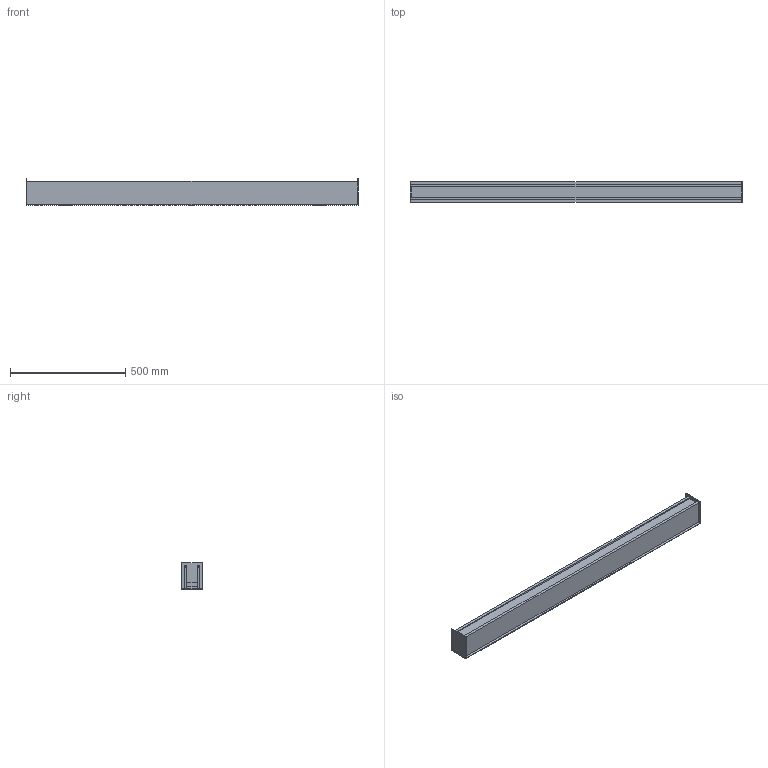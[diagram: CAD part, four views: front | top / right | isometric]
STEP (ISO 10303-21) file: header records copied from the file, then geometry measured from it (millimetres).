
FILE_DESCRIPTION (( 'STEP AP203' ), '1' );
FILE_NAME ('Belka natynkowa 1440mm.STEP', '2020-07-12T21:23:50', ( '' ), ( '' ), 'SwSTEP 2.0', 'SolidWorks 2012', '' );
FILE_SCHEMA (( 'CONFIG_CONTROL_DESIGN' ));
Length unit declared in the file: millimetre
Products named in the file (1): Belka natynkowa 1440mm
Bounding box: 1440 x 90 x 115 mm (x, y, z)
Volume: 4169242.9 mm3; surface area: 1065344.7 mm2
Topology: 1 solids, 1 shells, 92 faces, 260 edges, 172 vertices
Faces by surface type: plane 52, cylinder 40
Entity records: 3141 total; most frequent: DIRECTION 526, CARTESIAN_POINT 525, ORIENTED_EDGE 520, EDGE_CURVE 260, VECTOR 180, LINE 180, AXIS2_PLACEMENT_3D 173, VERTEX_POINT 172
